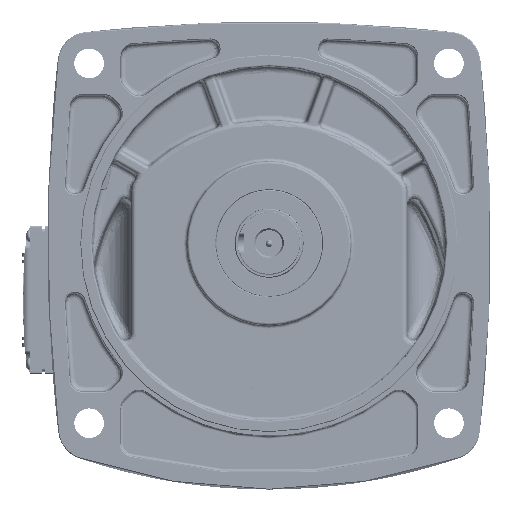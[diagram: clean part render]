
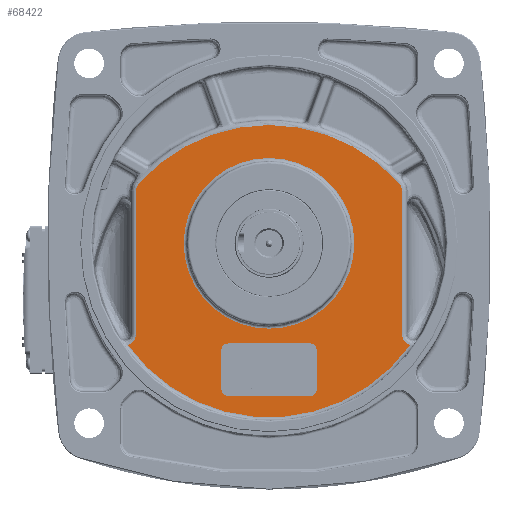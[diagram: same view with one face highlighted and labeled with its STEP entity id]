
A CAD part, top view. The second image highlights one B-rep face of the part: STEP entity #68422.
In plain terms, the highlighted planar face has unit normal (0, 0, 1).
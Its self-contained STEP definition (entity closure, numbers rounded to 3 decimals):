
#2265=LINE('',#144438,#5204);
#2269=LINE('',#144450,#5208);
#2273=LINE('',#144462,#5212);
#2370=LINE('',#144738,#5309);
#2610=LINE('',#151496,#5549);
#2611=LINE('',#151511,#5550);
#5204=VECTOR('',#86665,10.);
#5208=VECTOR('',#86677,10.);
#5212=VECTOR('',#86689,10.);
#5309=VECTOR('',#86936,10.);
#5549=VECTOR('',#88252,10.);
#5550=VECTOR('',#88255,10.);
#7960=FACE_BOUND('',#16318,.T.);
#7961=FACE_BOUND('',#16319,.T.);
#8733=PLANE('',#74523);
#12028=FACE_OUTER_BOUND('',#16317,.T.);
#16317=EDGE_LOOP('',(#54745,#54746,#54747,#54748,#54749,#54750,#54751,#54752));
#16318=EDGE_LOOP('',(#54753,#54754,#54755,#54756,#54757,#54758,#54759,#54760));
#16319=EDGE_LOOP('',(#54761));
#20151=CIRCLE('',#73901,4.);
#20153=CIRCLE('',#73905,4.);
#20155=CIRCLE('',#73909,4.);
#20157=CIRCLE('',#73913,4.);
#20478=CIRCLE('',#74519,105.999);
#20482=CIRCLE('',#74524,106.076);
#20483=CIRCLE('',#74525,52.);
#23957=B_SPLINE_CURVE_WITH_KNOTS('',3,(#151471,#151472,#151473,#151474,
#151475,#151476),.UNSPECIFIED.,.F.,.F.,(4,1,1,4),(0.901,1.027,
1.54,1.797),.UNSPECIFIED.);
#23959=B_SPLINE_CURVE_WITH_KNOTS('',3,(#151488,#151489,#151490,#151491,
#151492,#151493,#151494),.UNSPECIFIED.,.F.,.F.,(4,1,1,1,4),(0.,
0.257,0.513,0.77,0.896),
 .UNSPECIFIED.);
#23960=B_SPLINE_CURVE_WITH_KNOTS('',3,(#151498,#151499,#151500,#151501,
#151502),.UNSPECIFIED.,.F.,.F.,(4,1,4),(0.,0.217,0.507),
 .UNSPECIFIED.);
#23961=B_SPLINE_CURVE_WITH_KNOTS('',3,(#151506,#151507,#151508,#151509,
#151510),.UNSPECIFIED.,.F.,.F.,(4,1,4),(0.,0.29,0.507),
 .UNSPECIFIED.);
#28624=VERTEX_POINT('',#144428);
#28625=VERTEX_POINT('',#144430);
#28627=VERTEX_POINT('',#144436);
#28629=VERTEX_POINT('',#144442);
#28631=VERTEX_POINT('',#144448);
#28633=VERTEX_POINT('',#144454);
#28635=VERTEX_POINT('',#144460);
#28637=VERTEX_POINT('',#144466);
#29155=VERTEX_POINT('',#151265);
#29156=VERTEX_POINT('',#151267);
#29160=VERTEX_POINT('',#151470);
#29162=VERTEX_POINT('',#151487);
#29163=VERTEX_POINT('',#151495);
#29164=VERTEX_POINT('',#151497);
#29165=VERTEX_POINT('',#151503);
#29166=VERTEX_POINT('',#151505);
#29167=VERTEX_POINT('',#151512);
#37045=EDGE_CURVE('',#28624,#28625,#20151,.T.);
#37049=EDGE_CURVE('',#28624,#28627,#2265,.T.);
#37052=EDGE_CURVE('',#28629,#28627,#20153,.T.);
#37055=EDGE_CURVE('',#28629,#28631,#2269,.T.);
#37058=EDGE_CURVE('',#28633,#28631,#20155,.T.);
#37061=EDGE_CURVE('',#28633,#28635,#2273,.T.);
#37064=EDGE_CURVE('',#28637,#28635,#20157,.T.);
#37200=EDGE_CURVE('',#28637,#28625,#2370,.T.);
#37965=EDGE_CURVE('',#29155,#29156,#20478,.T.);
#37972=EDGE_CURVE('',#29156,#29160,#23957,.T.);
#37975=EDGE_CURVE('',#29162,#29155,#23959,.T.);
#37976=EDGE_CURVE('',#29163,#29162,#2610,.T.);
#37977=EDGE_CURVE('',#29164,#29163,#23960,.T.);
#37978=EDGE_CURVE('',#29165,#29164,#20482,.T.);
#37979=EDGE_CURVE('',#29166,#29165,#23961,.T.);
#37980=EDGE_CURVE('',#29160,#29166,#2611,.T.);
#37981=EDGE_CURVE('',#29167,#29167,#20483,.T.);
#54745=ORIENTED_EDGE('',*,*,#37965,.F.);
#54746=ORIENTED_EDGE('',*,*,#37975,.F.);
#54747=ORIENTED_EDGE('',*,*,#37976,.F.);
#54748=ORIENTED_EDGE('',*,*,#37977,.F.);
#54749=ORIENTED_EDGE('',*,*,#37978,.F.);
#54750=ORIENTED_EDGE('',*,*,#37979,.F.);
#54751=ORIENTED_EDGE('',*,*,#37980,.F.);
#54752=ORIENTED_EDGE('',*,*,#37972,.F.);
#54753=ORIENTED_EDGE('',*,*,#37061,.T.);
#54754=ORIENTED_EDGE('',*,*,#37064,.F.);
#54755=ORIENTED_EDGE('',*,*,#37200,.T.);
#54756=ORIENTED_EDGE('',*,*,#37045,.F.);
#54757=ORIENTED_EDGE('',*,*,#37049,.T.);
#54758=ORIENTED_EDGE('',*,*,#37052,.F.);
#54759=ORIENTED_EDGE('',*,*,#37055,.T.);
#54760=ORIENTED_EDGE('',*,*,#37058,.F.);
#54761=ORIENTED_EDGE('',*,*,#37981,.F.);
#68422=ADVANCED_FACE('',(#12028,#7960,#7961),#8733,.F.);
#73901=AXIS2_PLACEMENT_3D('',#144431,#86658,#86659);
#73905=AXIS2_PLACEMENT_3D('',#144444,#86671,#86672);
#73909=AXIS2_PLACEMENT_3D('',#144456,#86683,#86684);
#73913=AXIS2_PLACEMENT_3D('',#144468,#86695,#86696);
#74519=AXIS2_PLACEMENT_3D('',#151268,#88242,#88243);
#74523=AXIS2_PLACEMENT_3D('',#151486,#88250,#88251);
#74524=AXIS2_PLACEMENT_3D('',#151504,#88253,#88254);
#74525=AXIS2_PLACEMENT_3D('',#151513,#88256,#88257);
#86658=DIRECTION('center_axis',(0.,0.,1.));
#86659=DIRECTION('ref_axis',(0.707,0.707,0.));
#86665=DIRECTION('',(0.,-1.,0.));
#86671=DIRECTION('center_axis',(0.,0.,1.));
#86672=DIRECTION('ref_axis',(0.707,-0.707,0.));
#86677=DIRECTION('',(-1.,0.,0.));
#86683=DIRECTION('center_axis',(0.,0.,1.));
#86684=DIRECTION('ref_axis',(-0.707,-0.707,0.));
#86689=DIRECTION('',(0.,1.,0.));
#86695=DIRECTION('center_axis',(0.,0.,1.));
#86696=DIRECTION('ref_axis',(-0.707,0.707,0.));
#86936=DIRECTION('',(1.,0.,0.));
#88242=DIRECTION('center_axis',(0.,0.,-1.));
#88243=DIRECTION('ref_axis',(0.,-1.,0.));
#88250=DIRECTION('center_axis',(0.,0.,-1.));
#88251=DIRECTION('ref_axis',(-1.,0.,0.));
#88252=DIRECTION('',(0.,-1.,0.));
#88253=DIRECTION('center_axis',(0.,0.,-1.));
#88254=DIRECTION('ref_axis',(0.,1.,0.));
#88255=DIRECTION('',(0.,1.,0.));
#88256=DIRECTION('center_axis',(0.,0.,1.));
#88257=DIRECTION('ref_axis',(-1.,0.,0.));
#144428=CARTESIAN_POINT('',(31.891,-30.92,88.));
#144430=CARTESIAN_POINT('',(27.891,-26.92,88.));
#144431=CARTESIAN_POINT('Origin',(27.891,-30.92,88.));
#144436=CARTESIAN_POINT('',(31.891,-54.92,88.));
#144438=CARTESIAN_POINT('',(31.891,-29.42,88.));
#144442=CARTESIAN_POINT('',(27.891,-58.92,88.));
#144444=CARTESIAN_POINT('Origin',(27.891,-54.92,88.));
#144448=CARTESIAN_POINT('',(-22.109,-58.92,88.));
#144450=CARTESIAN_POINT('',(-11.609,-58.92,88.));
#144454=CARTESIAN_POINT('',(-26.109,-54.92,88.));
#144456=CARTESIAN_POINT('Origin',(-22.109,-54.92,88.));
#144460=CARTESIAN_POINT('',(-26.109,-30.92,88.));
#144462=CARTESIAN_POINT('',(-26.109,-13.42,88.));
#144466=CARTESIAN_POINT('',(-22.109,-26.92,88.));
#144468=CARTESIAN_POINT('Origin',(-22.109,-30.92,88.));
#144738=CARTESIAN_POINT('',(17.391,-26.92,88.));
#151265=CARTESIAN_POINT('',(88.925,-27.839,88.));
#151267=CARTESIAN_POINT('',(-83.143,-27.839,88.));
#151268=CARTESIAN_POINT('Origin',(2.891,34.08,88.));
#151470=CARTESIAN_POINT('',(-78.109,-21.114,88.));
#151471=CARTESIAN_POINT('Ctrl Pts',(-83.144,-27.838,
88.));
#151472=CARTESIAN_POINT('Ctrl Pts',(-82.738,-27.721,
88.));
#151473=CARTESIAN_POINT('Ctrl Pts',(-80.734,-26.943,
88.));
#151474=CARTESIAN_POINT('Ctrl Pts',(-78.576,-24.563,
88.));
#151475=CARTESIAN_POINT('Ctrl Pts',(-78.109,-21.97,
88.));
#151476=CARTESIAN_POINT('Ctrl Pts',(-78.109,-21.114,
88.));
#151486=CARTESIAN_POINT('Origin',(2.891,0.08,88.));
#151487=CARTESIAN_POINT('',(83.891,-21.114,88.));
#151488=CARTESIAN_POINT('Ctrl Pts',(83.891,-21.114,
88.));
#151489=CARTESIAN_POINT('Ctrl Pts',(83.891,-21.97,
88.));
#151490=CARTESIAN_POINT('Ctrl Pts',(84.21,-23.7,
88.));
#151491=CARTESIAN_POINT('Ctrl Pts',(85.588,-25.927,
88.));
#151492=CARTESIAN_POINT('Ctrl Pts',(87.32,-27.254,
88.));
#151493=CARTESIAN_POINT('Ctrl Pts',(88.52,-27.72,
88.));
#151494=CARTESIAN_POINT('Ctrl Pts',(88.926,-27.837,
88.));
#151495=CARTESIAN_POINT('',(83.891,65.956,88.));
#151496=CARTESIAN_POINT('',(83.891,-47.92,88.));
#151497=CARTESIAN_POINT('',(82.117,70.616,88.));
#151498=CARTESIAN_POINT('Ctrl Pts',(82.117,70.616,88.));
#151499=CARTESIAN_POINT('Ctrl Pts',(82.599,70.075,88.));
#151500=CARTESIAN_POINT('Ctrl Pts',(83.534,68.625,88.));
#151501=CARTESIAN_POINT('Ctrl Pts',(83.891,66.921,88.));
#151502=CARTESIAN_POINT('Ctrl Pts',(83.891,65.956,88.));
#151503=CARTESIAN_POINT('',(-76.336,70.616,88.));
#151504=CARTESIAN_POINT('Origin',(2.891,0.08,88.));
#151505=CARTESIAN_POINT('',(-78.109,65.956,88.));
#151506=CARTESIAN_POINT('Ctrl Pts',(-78.109,65.956,88.));
#151507=CARTESIAN_POINT('Ctrl Pts',(-78.109,66.921,88.));
#151508=CARTESIAN_POINT('Ctrl Pts',(-77.752,68.625,88.));
#151509=CARTESIAN_POINT('Ctrl Pts',(-76.817,70.075,
88.));
#151510=CARTESIAN_POINT('Ctrl Pts',(-76.336,70.616,
88.));
#151511=CARTESIAN_POINT('',(-78.109,-47.92,88.));
#151512=CARTESIAN_POINT('',(54.891,34.08,88.));
#151513=CARTESIAN_POINT('Origin',(2.891,34.08,88.));
